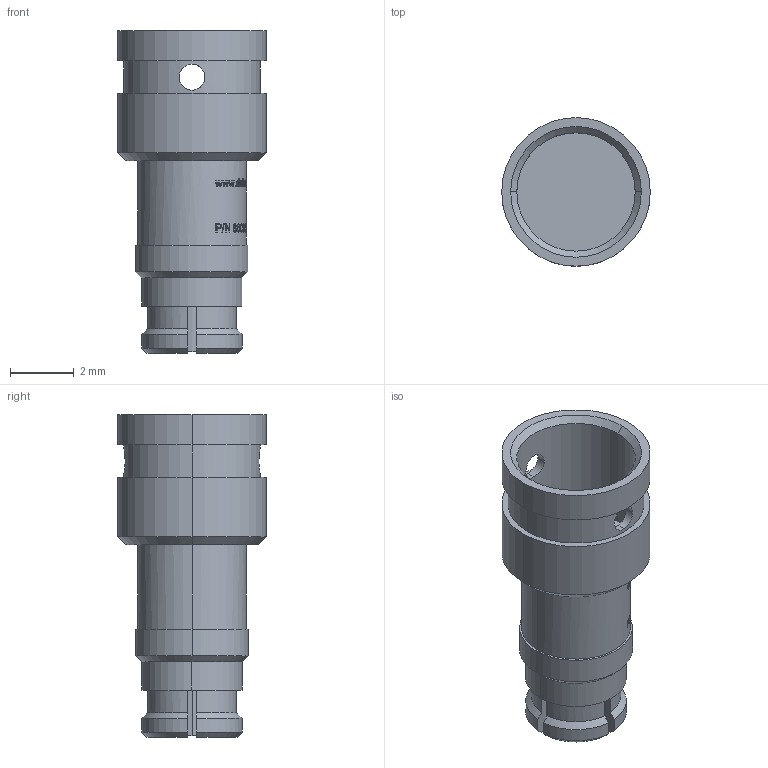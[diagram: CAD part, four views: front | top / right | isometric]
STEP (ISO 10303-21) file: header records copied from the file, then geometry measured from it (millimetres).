
FILE_DESCRIPTION (( 'STEP AP203' ), '1' );
FILE_NAME ('8608031G003-000.STEP', '2023-10-18T18:12:38', ( '' ), ( '' ), 'SwSTEP 2.0', 'SolidWorks 2022', '' );
FILE_SCHEMA (( 'CONFIG_CONTROL_DESIGN' ));
Length unit declared in the file: inch
Products named in the file (1): 8608031G003-000
Bounding box: 4.65 x 4.65 x 10.08 mm (x, y, z)
Volume: 71.1 mm3; surface area: 260.5 mm2
Topology: 1 solids, 2 shells, 568 faces, 1517 edges, 1005 vertices
Faces by surface type: bspline 298, plane 148, cylinder 102, cone 16, torus 4
Entity records: 22321 total; most frequent: CARTESIAN_POINT 10627, ORIENTED_EDGE 3030, EDGE_CURVE 1515, DIRECTION 1332, VERTEX_POINT 1005, B_SPLINE_CURVE_WITH_KNOTS 970, EDGE_LOOP 630, FACE_OUTER_BOUND 568
